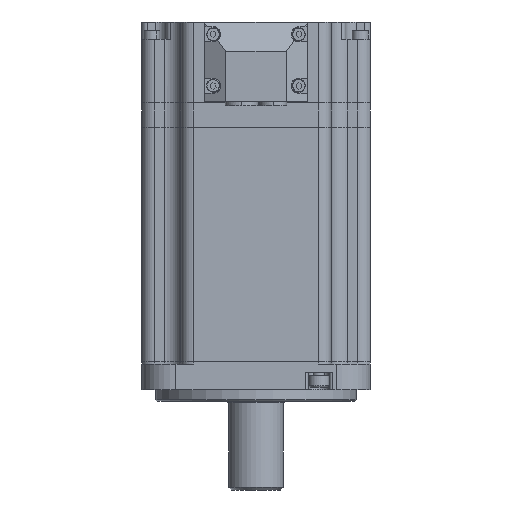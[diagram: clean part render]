
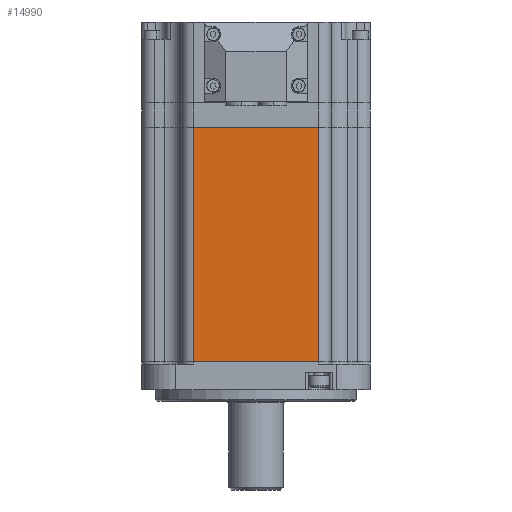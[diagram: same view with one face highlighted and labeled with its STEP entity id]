
A CAD part, front view. The second image highlights one B-rep face of the part: STEP entity #14990.
In plain terms, the highlighted planar face has unit normal (0, -1, 0).
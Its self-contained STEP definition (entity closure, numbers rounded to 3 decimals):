
#337 = EDGE_CURVE ( 'NONE', #20738, #30378, #11690, .T. ) ;
#5233 = ORIENTED_EDGE ( 'NONE', *, *, #18979, .T. ) ;
#5905 = CARTESIAN_POINT ( 'NONE',  ( 25.822, -42.874, 10. ) ) ;
#5966 = FACE_OUTER_BOUND ( 'NONE', #17479, .T. ) ;
#6206 = PLANE ( 'NONE',  #10473 ) ;
#8418 = VERTEX_POINT ( 'NONE', #9054 ) ;
#8877 = DIRECTION ( 'NONE',  ( 0., 1., 0. ) ) ;
#9054 = CARTESIAN_POINT ( 'NONE',  ( -17.678, -42.874, 91.9 ) ) ;
#10228 = VECTOR ( 'NONE', #31977, 1000. ) ;
#10473 = AXIS2_PLACEMENT_3D ( 'NONE', #11419, #8877, #27471 ) ;
#10970 = LINE ( 'NONE', #32270, #23445 ) ;
#11416 = CARTESIAN_POINT ( 'NONE',  ( -22.178, -42.874, 10. ) ) ;
#11419 = CARTESIAN_POINT ( 'NONE',  ( -22.178, -42.874, 91.9 ) ) ;
#11690 = LINE ( 'NONE', #13664, #18746 ) ;
#13465 = CARTESIAN_POINT ( 'NONE',  ( -17.678, -42.874, 10. ) ) ;
#13664 = CARTESIAN_POINT ( 'NONE',  ( 25.822, -42.874, 91.9 ) ) ;
#14169 = VECTOR ( 'NONE', #27344, 1000. ) ;
#14990 = ADVANCED_FACE ( 'NONE', ( #5966 ), #6206, .F. ) ;
#15806 = LINE ( 'NONE', #11416, #14169 ) ;
#16300 = DIRECTION ( 'NONE',  ( 1., 0., 0. ) ) ;
#17479 = EDGE_LOOP ( 'NONE', ( #18755, #5233, #20053, #29781 ) ) ;
#18746 = VECTOR ( 'NONE', #29598, 1000. ) ;
#18755 = ORIENTED_EDGE ( 'NONE', *, *, #19990, .F. ) ;
#18979 = EDGE_CURVE ( 'NONE', #8418, #24318, #24384, .T. ) ;
#19990 = EDGE_CURVE ( 'NONE', #8418, #30378, #10970, .T. ) ;
#20053 = ORIENTED_EDGE ( 'NONE', *, *, #31564, .T. ) ;
#20738 = VERTEX_POINT ( 'NONE', #5905 ) ;
#21260 = CARTESIAN_POINT ( 'NONE',  ( -17.678, -42.874, 91.9 ) ) ;
#23445 = VECTOR ( 'NONE', #16300, 1000. ) ;
#24318 = VERTEX_POINT ( 'NONE', #13465 ) ;
#24384 = LINE ( 'NONE', #21260, #10228 ) ;
#24688 = CARTESIAN_POINT ( 'NONE',  ( 25.822, -42.874, 91.9 ) ) ;
#27344 = DIRECTION ( 'NONE',  ( 1., 0., 0. ) ) ;
#27471 = DIRECTION ( 'NONE',  ( -1., 0., 0. ) ) ;
#29598 = DIRECTION ( 'NONE',  ( 0., 0., 1. ) ) ;
#29781 = ORIENTED_EDGE ( 'NONE', *, *, #337, .T. ) ;
#30378 = VERTEX_POINT ( 'NONE', #24688 ) ;
#31564 = EDGE_CURVE ( 'NONE', #24318, #20738, #15806, .T. ) ;
#31977 = DIRECTION ( 'NONE',  ( 0., 0., -1. ) ) ;
#32270 = CARTESIAN_POINT ( 'NONE',  ( -22.178, -42.874, 91.9 ) ) ;
